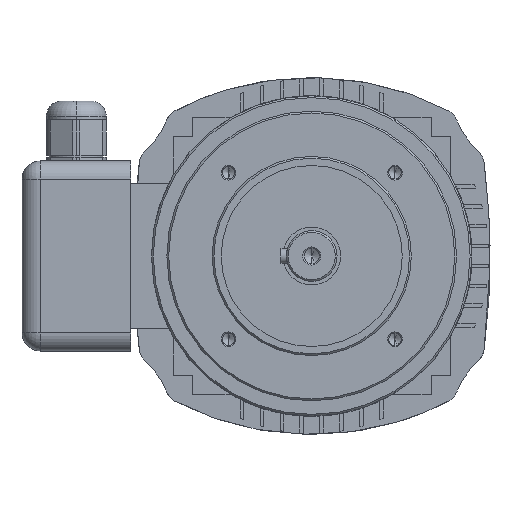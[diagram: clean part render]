
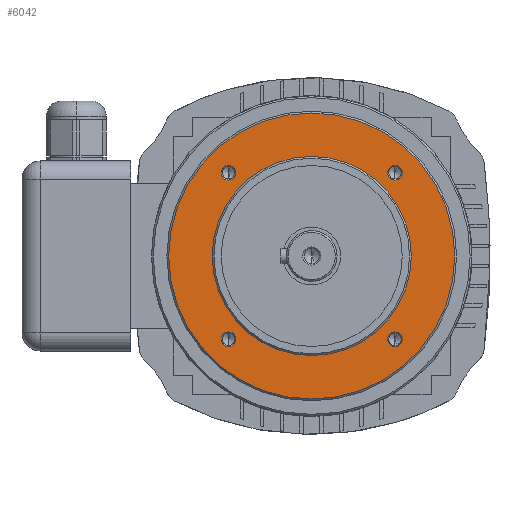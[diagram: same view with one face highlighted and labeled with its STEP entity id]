
A CAD part, left-side view. The second image highlights one B-rep face of the part: STEP entity #6042.
In plain terms, the highlighted planar face has unit normal (-1, 0, 0).
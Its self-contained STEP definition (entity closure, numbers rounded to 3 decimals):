
#28 = AXIS2_PLACEMENT_3D ( 'NONE', #8531, #12930, #10874 ) ;
#378 = FACE_BOUND ( 'NONE', #2578, .T. ) ;
#439 = VERTEX_POINT ( 'NONE', #2094 ) ;
#465 = EDGE_CURVE ( 'NONE', #7976, #10909, #7220, .T. ) ;
#596 = VERTEX_POINT ( 'NONE', #8821 ) ;
#631 = ORIENTED_EDGE ( 'NONE', *, *, #6461, .T. ) ;
#633 = CARTESIAN_POINT ( 'NONE',  ( 0., 45.962, -45.962 ) ) ;
#687 = EDGE_CURVE ( 'NONE', #14000, #13753, #13204, .T. ) ;
#713 = CIRCLE ( 'NONE', #28, 4.025 ) ;
#721 = VERTEX_POINT ( 'NONE', #11634 ) ;
#869 = DIRECTION ( 'NONE',  ( -1., 0., 0. ) ) ;
#913 = EDGE_CURVE ( 'NONE', #596, #3412, #4789, .T. ) ;
#1098 = AXIS2_PLACEMENT_3D ( 'NONE', #8541, #869, #13873 ) ;
#1163 = DIRECTION ( 'NONE',  ( -1., 0., 0. ) ) ;
#1180 = ORIENTED_EDGE ( 'NONE', *, *, #9626, .F. ) ;
#1309 = FACE_OUTER_BOUND ( 'NONE', #8675, .T. ) ;
#1440 = CARTESIAN_POINT ( 'NONE',  ( 0., 0., 0. ) ) ;
#1686 = EDGE_CURVE ( 'NONE', #10909, #7976, #2403, .T. ) ;
#1876 = DIRECTION ( 'NONE',  ( -1., 0., 0. ) ) ;
#2070 = AXIS2_PLACEMENT_3D ( 'NONE', #5611, #11200, #12330 ) ;
#2094 = CARTESIAN_POINT ( 'NONE',  ( 0., 0., 79. ) ) ;
#2403 = CIRCLE ( 'NONE', #13512, 55. ) ;
#2449 = CARTESIAN_POINT ( 'NONE',  ( 0., 55., 0. ) ) ;
#2523 = ORIENTED_EDGE ( 'NONE', *, *, #913, .F. ) ;
#2578 = EDGE_LOOP ( 'NONE', ( #5968, #3789 ) ) ;
#2902 = EDGE_LOOP ( 'NONE', ( #3505, #9812 ) ) ;
#2912 = CARTESIAN_POINT ( 'NONE',  ( 0., -45.962, 45.962 ) ) ;
#3412 = VERTEX_POINT ( 'NONE', #12113 ) ;
#3505 = ORIENTED_EDGE ( 'NONE', *, *, #6205, .F. ) ;
#3518 = FACE_BOUND ( 'NONE', #2902, .T. ) ;
#3557 = CIRCLE ( 'NONE', #4465, 79. ) ;
#3663 = FACE_BOUND ( 'NONE', #4068, .T. ) ;
#3789 = ORIENTED_EDGE ( 'NONE', *, *, #8802, .F. ) ;
#3821 = EDGE_CURVE ( 'NONE', #11712, #5927, #6051, .T. ) ;
#3887 = ORIENTED_EDGE ( 'NONE', *, *, #465, .F. ) ;
#3966 = CARTESIAN_POINT ( 'NONE',  ( 0., 45.962, 41.937 ) ) ;
#4068 = EDGE_LOOP ( 'NONE', ( #10135, #3887 ) ) ;
#4078 = DIRECTION ( 'NONE',  ( 0., 0., 1. ) ) ;
#4245 = CIRCLE ( 'NONE', #9003, 79. ) ;
#4457 = AXIS2_PLACEMENT_3D ( 'NONE', #7055, #1876, #4078 ) ;
#4465 = AXIS2_PLACEMENT_3D ( 'NONE', #13024, #11962, #6577 ) ;
#4679 = ORIENTED_EDGE ( 'NONE', *, *, #3821, .F. ) ;
#4789 = CIRCLE ( 'NONE', #2070, 4.025 ) ;
#4837 = CARTESIAN_POINT ( 'NONE',  ( 0., -45.962, -41.937 ) ) ;
#5100 = CARTESIAN_POINT ( 'NONE',  ( 0., 0., -79. ) ) ;
#5338 = CIRCLE ( 'NONE', #12632, 4.025 ) ;
#5493 = CARTESIAN_POINT ( 'NONE',  ( 0., 45.962, 45.962 ) ) ;
#5611 = CARTESIAN_POINT ( 'NONE',  ( 0., 45.962, -45.962 ) ) ;
#5646 = DIRECTION ( 'NONE',  ( -1., 0., 0. ) ) ;
#5653 = PLANE ( 'NONE',  #11478 ) ;
#5927 = VERTEX_POINT ( 'NONE', #4837 ) ;
#5968 = ORIENTED_EDGE ( 'NONE', *, *, #687, .F. ) ;
#6042 = ADVANCED_FACE ( 'NONE', ( #10103, #378, #3518, #11317, #1309, #3663 ), #5653, .F. ) ;
#6051 = CIRCLE ( 'NONE', #13978, 4.025 ) ;
#6138 = EDGE_LOOP ( 'NONE', ( #6780, #4679 ) ) ;
#6205 = EDGE_CURVE ( 'NONE', #721, #11655, #11248, .T. ) ;
#6461 = EDGE_CURVE ( 'NONE', #8444, #439, #4245, .T. ) ;
#6472 = CARTESIAN_POINT ( 'NONE',  ( 0., -45.962, 41.937 ) ) ;
#6577 = DIRECTION ( 'NONE',  ( 0., 0., -1. ) ) ;
#6656 = CARTESIAN_POINT ( 'NONE',  ( 0., -45.962, -49.987 ) ) ;
#6692 = DIRECTION ( 'NONE',  ( 0., 0., -1. ) ) ;
#6780 = ORIENTED_EDGE ( 'NONE', *, *, #12652, .F. ) ;
#7055 = CARTESIAN_POINT ( 'NONE',  ( 0., 45.962, 45.962 ) ) ;
#7080 = AXIS2_PLACEMENT_3D ( 'NONE', #2912, #12769, #13640 ) ;
#7220 = CIRCLE ( 'NONE', #1098, 55. ) ;
#7271 = CARTESIAN_POINT ( 'NONE',  ( 0., 0., 55. ) ) ;
#7445 = DIRECTION ( 'NONE',  ( -1., 0., 0. ) ) ;
#7770 = DIRECTION ( 'NONE',  ( 0., 0., 1. ) ) ;
#7976 = VERTEX_POINT ( 'NONE', #11784 ) ;
#8368 = DIRECTION ( 'NONE',  ( 0., 0., 1. ) ) ;
#8444 = VERTEX_POINT ( 'NONE', #5100 ) ;
#8531 = CARTESIAN_POINT ( 'NONE',  ( 0., -45.962, -45.962 ) ) ;
#8541 = CARTESIAN_POINT ( 'NONE',  ( 0., 0., 0. ) ) ;
#8547 = CIRCLE ( 'NONE', #11266, 4.025 ) ;
#8675 = EDGE_LOOP ( 'NONE', ( #631, #11463 ) ) ;
#8714 = EDGE_LOOP ( 'NONE', ( #1180, #2523 ) ) ;
#8802 = EDGE_CURVE ( 'NONE', #13753, #14000, #9428, .T. ) ;
#8821 = CARTESIAN_POINT ( 'NONE',  ( 0., 45.962, -49.987 ) ) ;
#8910 = DIRECTION ( 'NONE',  ( 1., 0., 0. ) ) ;
#9003 = AXIS2_PLACEMENT_3D ( 'NONE', #1440, #12357, #6692 ) ;
#9059 = EDGE_CURVE ( 'NONE', #439, #8444, #3557, .T. ) ;
#9392 = EDGE_CURVE ( 'NONE', #11655, #721, #8547, .T. ) ;
#9428 = CIRCLE ( 'NONE', #13057, 4.025 ) ;
#9626 = EDGE_CURVE ( 'NONE', #3412, #596, #5338, .T. ) ;
#9812 = ORIENTED_EDGE ( 'NONE', *, *, #9392, .F. ) ;
#9955 = CARTESIAN_POINT ( 'NONE',  ( 0., 0., 0. ) ) ;
#10103 = FACE_BOUND ( 'NONE', #6138, .T. ) ;
#10135 = ORIENTED_EDGE ( 'NONE', *, *, #1686, .F. ) ;
#10482 = CARTESIAN_POINT ( 'NONE',  ( 0., -45.962, 45.962 ) ) ;
#10732 = DIRECTION ( 'NONE',  ( -1., 0., 0. ) ) ;
#10810 = DIRECTION ( 'NONE',  ( 0., 0., 1. ) ) ;
#10874 = DIRECTION ( 'NONE',  ( 0., 0., 1. ) ) ;
#10886 = DIRECTION ( 'NONE',  ( 0., 0., 1. ) ) ;
#10909 = VERTEX_POINT ( 'NONE', #7271 ) ;
#11200 = DIRECTION ( 'NONE',  ( -1., 0., 0. ) ) ;
#11245 = DIRECTION ( 'NONE',  ( 0., 0., -1. ) ) ;
#11248 = CIRCLE ( 'NONE', #4457, 4.025 ) ;
#11266 = AXIS2_PLACEMENT_3D ( 'NONE', #5493, #10732, #10810 ) ;
#11317 = FACE_BOUND ( 'NONE', #8714, .T. ) ;
#11405 = DIRECTION ( 'NONE',  ( -1., 0., 0. ) ) ;
#11463 = ORIENTED_EDGE ( 'NONE', *, *, #9059, .T. ) ;
#11478 = AXIS2_PLACEMENT_3D ( 'NONE', #2449, #8910, #11245 ) ;
#11614 = DIRECTION ( 'NONE',  ( 0., 0., 1. ) ) ;
#11634 = CARTESIAN_POINT ( 'NONE',  ( 0., 45.962, 49.987 ) ) ;
#11655 = VERTEX_POINT ( 'NONE', #3966 ) ;
#11712 = VERTEX_POINT ( 'NONE', #6656 ) ;
#11784 = CARTESIAN_POINT ( 'NONE',  ( 0., 0., -55. ) ) ;
#11962 = DIRECTION ( 'NONE',  ( -1., 0., 0. ) ) ;
#12113 = CARTESIAN_POINT ( 'NONE',  ( 0., 45.962, -41.937 ) ) ;
#12232 = CARTESIAN_POINT ( 'NONE',  ( 0., -45.962, -45.962 ) ) ;
#12330 = DIRECTION ( 'NONE',  ( 0., 0., 1. ) ) ;
#12357 = DIRECTION ( 'NONE',  ( -1., 0., 0. ) ) ;
#12560 = CARTESIAN_POINT ( 'NONE',  ( 0., -45.962, 49.987 ) ) ;
#12632 = AXIS2_PLACEMENT_3D ( 'NONE', #633, #7445, #8368 ) ;
#12652 = EDGE_CURVE ( 'NONE', #5927, #11712, #713, .T. ) ;
#12769 = DIRECTION ( 'NONE',  ( -1., 0., 0. ) ) ;
#12930 = DIRECTION ( 'NONE',  ( -1., 0., 0. ) ) ;
#13024 = CARTESIAN_POINT ( 'NONE',  ( 0., 0., 0. ) ) ;
#13057 = AXIS2_PLACEMENT_3D ( 'NONE', #10482, #11405, #11614 ) ;
#13204 = CIRCLE ( 'NONE', #7080, 4.025 ) ;
#13512 = AXIS2_PLACEMENT_3D ( 'NONE', #9955, #1163, #10886 ) ;
#13640 = DIRECTION ( 'NONE',  ( 0., 0., 1. ) ) ;
#13753 = VERTEX_POINT ( 'NONE', #6472 ) ;
#13873 = DIRECTION ( 'NONE',  ( 0., 0., 1. ) ) ;
#13978 = AXIS2_PLACEMENT_3D ( 'NONE', #12232, #5646, #7770 ) ;
#14000 = VERTEX_POINT ( 'NONE', #12560 ) ;
